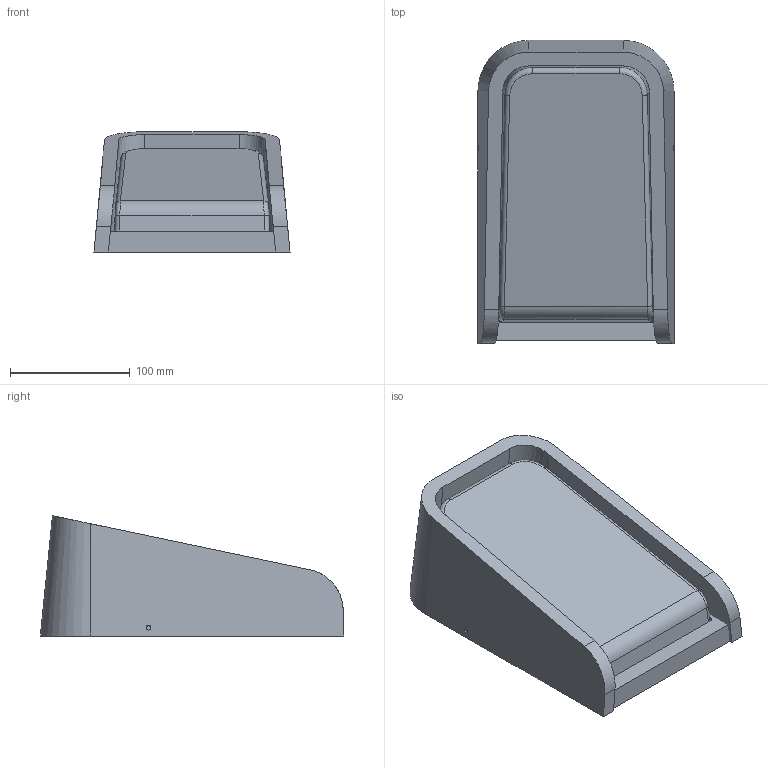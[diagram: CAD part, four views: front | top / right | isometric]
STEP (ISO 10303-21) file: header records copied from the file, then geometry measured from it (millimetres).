
FILE_DESCRIPTION(/* description */ (''),/* implementation_level */ '2;1');
FILE_NAME(/* name */ 'C:\Users\Franco Sartori E\Documents\FARO\DUPLICADO\Modelos\01_Digitalizados\0_MASK\03_Publicación\71282 - Vista 3D - Export.stp',/* time_stamp */ '2020-07-14T13:13:03+02:00',/* author */ ('Franco Sartori E'),/* organization */ (''),/* preprocessor_version */ 'ST-DEVELOPER v18',/* originating_system */ 'AutoCAD Mechanical',/* authorisation */ '');
FILE_SCHEMA (('AUTOMOTIVE_DESIGN { 1 0 10303 214 3 1 1 }'));
Length unit declared in the file: millimetre
Products named in the file (2): Product; 71279_71282_MASK - MASK-453091-Export
Assembly tree (1 placements, depth 2):
  Product
    71279_71282_MASK - MASK-453091-Export
Bounding box: 163.58 x 253.09 x 100.55 mm (x, y, z)
Volume: 1060017.7 mm3; surface area: 517190.7 mm2
Topology: 7 solids, 17 shells, 788 faces, 2164 edges, 1440 vertices
Faces by surface type: plane 350, cylinder 209, cone 159, bspline 44, torus 26
Entity records: 30379 total; most frequent: CARTESIAN_POINT 10544, ORIENTED_EDGE 4082, DIRECTION 3967, EDGE_CURVE 2132, VERTEX_POINT 1432, AXIS2_PLACEMENT_3D 1383, LINE 1201, VECTOR 1201
